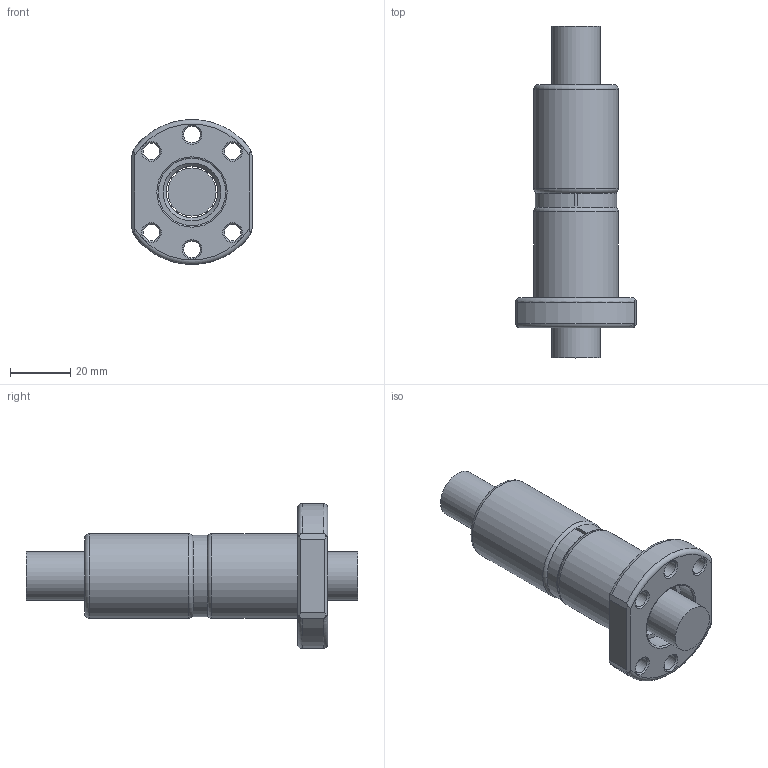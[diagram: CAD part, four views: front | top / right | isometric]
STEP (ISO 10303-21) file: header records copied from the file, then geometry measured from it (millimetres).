
FILE_DESCRIPTION(/* description */ (''),/* implementation_level */ '2;1');
FILE_NAME(/* name */ '1605.prt.step',/* time_stamp */ '2008-12-05T09:27:04+08:00',/* author */ (''),/* organization */ (''),/* preprocessor_version */ 'ST-DEVELOPER v11',/* originating_system */ 'SIEMENS UGS NX 6.0',/* authorisation */ '');
FILE_SCHEMA (('AUTOMOTIVE_DESIGN { 1 0 10303 214 1 1 1 1 }'));
Length unit declared in the file: millimetre
Products named in the file (1): 1605
Bounding box: 40 x 110 x 47.97 mm (x, y, z)
Volume: 58916.9 mm3; surface area: 22711.2 mm2
Topology: 5 solids, 5 shells, 77 faces, 169 edges, 107 vertices
Faces by surface type: plane 29, cylinder 21, cone 16, torus 11
Full cylindrical faces by diameter (mm): 5.5 x6, 15.95 x1, 17.2 x2, 20 x2, 22.3 x2, 28 x2
Entity records: 2130 total; most frequent: CARTESIAN_POINT 516, DIRECTION 334, ORIENTED_EDGE 250, AXIS2_PLACEMENT_3D 147, EDGE_LOOP 136, EDGE_CURVE 125, FACE_BOUND 106, VERTEX_POINT 101
